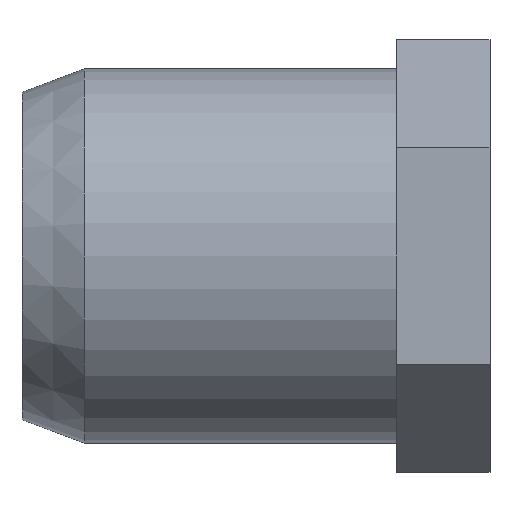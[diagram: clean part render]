
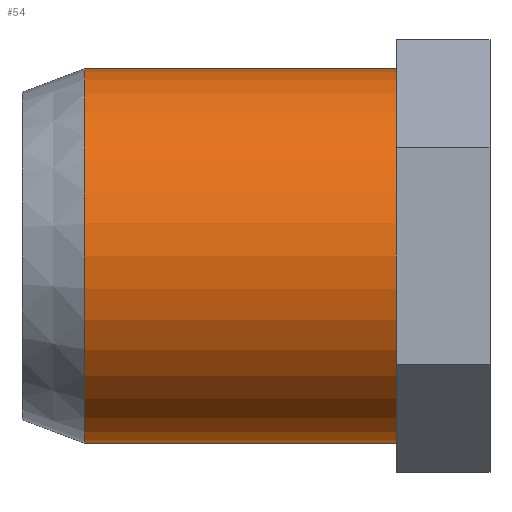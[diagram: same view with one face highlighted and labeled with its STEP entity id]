
A CAD part, left-side view. The second image highlights one B-rep face of the part: STEP entity #54.
In plain terms, the highlighted cylindrical face has radius 12 mm (diameter 24 mm), a partial arc.
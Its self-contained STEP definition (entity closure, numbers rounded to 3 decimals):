
#8 = CARTESIAN_POINT ( 'NONE',  ( -6., 0., -10.392 ) ) ;
#13 = FACE_OUTER_BOUND ( 'NONE', #384, .T. ) ;
#17 = CARTESIAN_POINT ( 'NONE',  ( 0., 0., 0. ) ) ;
#19 = CIRCLE ( 'NONE', #410, 12. ) ;
#39 = VERTEX_POINT ( 'NONE', #8 ) ;
#49 = EDGE_CURVE ( 'NONE', #591, #39, #511, .T. ) ;
#54 = ADVANCED_FACE ( 'NONE', ( #13 ), #431, .T. ) ;
#55 = VERTEX_POINT ( 'NONE', #258 ) ;
#85 = DIRECTION ( 'NONE',  ( 0., 0., -1. ) ) ;
#91 = CARTESIAN_POINT ( 'NONE',  ( 0., 0., 0. ) ) ;
#103 = DIRECTION ( 'NONE',  ( 0., 0., -1. ) ) ;
#116 = DIRECTION ( 'NONE',  ( 0., -1., 0. ) ) ;
#133 = CARTESIAN_POINT ( 'NONE',  ( 0., 0., -12. ) ) ;
#144 = ORIENTED_EDGE ( 'NONE', *, *, #578, .T. ) ;
#169 = ORIENTED_EDGE ( 'NONE', *, *, #366, .T. ) ;
#183 = CARTESIAN_POINT ( 'NONE',  ( 0., 0., 12. ) ) ;
#202 = CIRCLE ( 'NONE', #510, 12. ) ;
#215 = DIRECTION ( 'NONE',  ( 0., 0., -1. ) ) ;
#219 = VERTEX_POINT ( 'NONE', #586 ) ;
#227 = LINE ( 'NONE', #183, #352 ) ;
#244 = DIRECTION ( 'NONE',  ( 0., -1., 0. ) ) ;
#258 = CARTESIAN_POINT ( 'NONE',  ( 0., 20., 12. ) ) ;
#262 = DIRECTION ( 'NONE',  ( 0., -1., 0. ) ) ;
#293 = VERTEX_POINT ( 'NONE', #133 ) ;
#297 = DIRECTION ( 'NONE',  ( 0., 0., -1. ) ) ;
#310 = VERTEX_POINT ( 'NONE', #600 ) ;
#311 = EDGE_CURVE ( 'NONE', #55, #417, #227, .T. ) ;
#326 = CARTESIAN_POINT ( 'NONE',  ( 0., 0., 12. ) ) ;
#332 = ORIENTED_EDGE ( 'NONE', *, *, #49, .F. ) ;
#337 = ORIENTED_EDGE ( 'NONE', *, *, #311, .F. ) ;
#345 = ORIENTED_EDGE ( 'NONE', *, *, #548, .F. ) ;
#352 = VECTOR ( 'NONE', #552, 1000. ) ;
#366 = EDGE_CURVE ( 'NONE', #219, #293, #517, .T. ) ;
#384 = EDGE_LOOP ( 'NONE', ( #337, #144, #169, #489, #332, #345, #424 ) ) ;
#397 = CARTESIAN_POINT ( 'NONE',  ( 0., 0., 0. ) ) ;
#406 = EDGE_CURVE ( 'NONE', #39, #293, #458, .T. ) ;
#410 = AXIS2_PLACEMENT_3D ( 'NONE', #429, #244, #103 ) ;
#412 = DIRECTION ( 'NONE',  ( 0., -1., 0. ) ) ;
#417 = VERTEX_POINT ( 'NONE', #326 ) ;
#419 = AXIS2_PLACEMENT_3D ( 'NONE', #17, #262, #483 ) ;
#424 = ORIENTED_EDGE ( 'NONE', *, *, #447, .F. ) ;
#429 = CARTESIAN_POINT ( 'NONE',  ( 0., 20., 0. ) ) ;
#431 = CYLINDRICAL_SURFACE ( 'NONE', #583, 12. ) ;
#447 = EDGE_CURVE ( 'NONE', #417, #310, #202, .T. ) ;
#458 = CIRCLE ( 'NONE', #549, 12. ) ;
#471 = CARTESIAN_POINT ( 'NONE',  ( 0., 0., 0. ) ) ;
#474 = CARTESIAN_POINT ( 'NONE',  ( 0., 0., 0. ) ) ;
#483 = DIRECTION ( 'NONE',  ( 0., 0., -1. ) ) ;
#484 = VECTOR ( 'NONE', #551, 1000. ) ;
#489 = ORIENTED_EDGE ( 'NONE', *, *, #406, .F. ) ;
#496 = CIRCLE ( 'NONE', #532, 12. ) ;
#507 = CARTESIAN_POINT ( 'NONE',  ( 0., 0., -12. ) ) ;
#510 = AXIS2_PLACEMENT_3D ( 'NONE', #471, #412, #556 ) ;
#511 = CIRCLE ( 'NONE', #419, 12. ) ;
#517 = LINE ( 'NONE', #507, #484 ) ;
#528 = CARTESIAN_POINT ( 'NONE',  ( -12., 0., 0. ) ) ;
#532 = AXIS2_PLACEMENT_3D ( 'NONE', #474, #533, #297 ) ;
#533 = DIRECTION ( 'NONE',  ( 0., -1., 0. ) ) ;
#548 = EDGE_CURVE ( 'NONE', #310, #591, #496, .T. ) ;
#549 = AXIS2_PLACEMENT_3D ( 'NONE', #91, #553, #85 ) ;
#551 = DIRECTION ( 'NONE',  ( 0., -1., 0. ) ) ;
#552 = DIRECTION ( 'NONE',  ( 0., -1., 0. ) ) ;
#553 = DIRECTION ( 'NONE',  ( 0., -1., 0. ) ) ;
#556 = DIRECTION ( 'NONE',  ( 0., 0., -1. ) ) ;
#578 = EDGE_CURVE ( 'NONE', #55, #219, #19, .T. ) ;
#583 = AXIS2_PLACEMENT_3D ( 'NONE', #397, #116, #215 ) ;
#586 = CARTESIAN_POINT ( 'NONE',  ( 0., 20., -12. ) ) ;
#591 = VERTEX_POINT ( 'NONE', #528 ) ;
#600 = CARTESIAN_POINT ( 'NONE',  ( -6., 0., 10.392 ) ) ;
